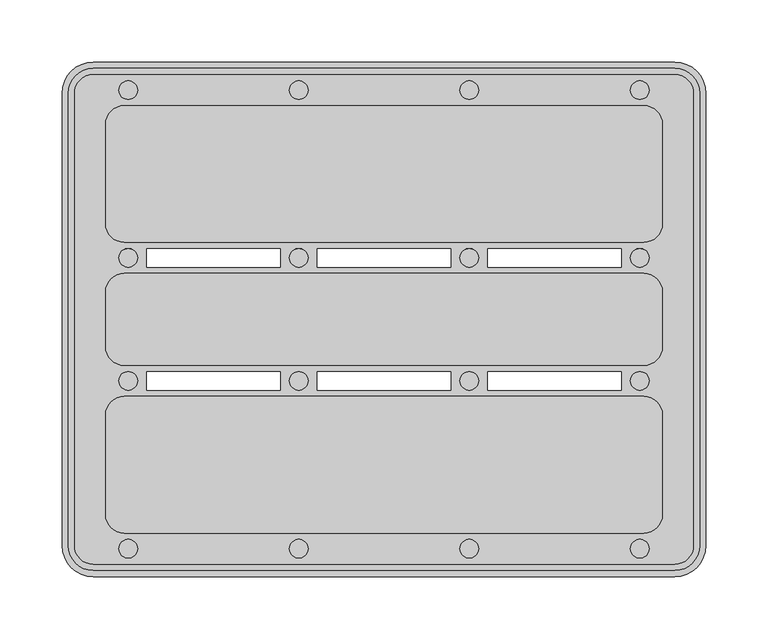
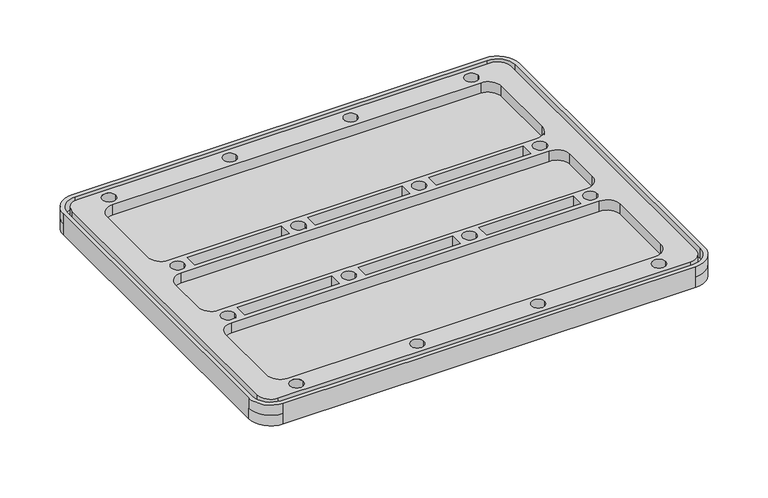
"""IFC4 building model written with IfcOpenShell, lengths in millimetres: light fixture geometry, Zumtobel CRAFT II Plus : CR2PL M17k-840 PC WB LDO WH."""

from ifc_helpers import new_model, si_unit, point, frame, frame_2d, origin, place, context, project, spatial, polyline, circle_curve, trimmed, segment, composite_curve, outline, extrude, source, transform, mapped, element, save
from ifc_brep_helpers import plane_surface, cylinder_surface, revolved_surface, advanced_brep


def light_fixture_68bd38ac(model_context):
    return source(origin(), model_context, "Body", "SolidModel", [
        advanced_brep(
        [(633.5000048, -207.0, -25.0), (165.5000048, -207.0, -25.0), (140.5000048, -182.0, -25.0), (140.5000048, 182.0, -25.0), (165.5000048, 207.0, -25.0), (633.5000048, 207.0, -25.0), (658.5000048, 182.0, -25.0), (658.5000048, -182.0, -25.0), (208.6450279, -42.0, -25.0), (208.6450279, -57.0, -25.0), (315.9273051, -57.0, -25.0), (315.9273051, -42.0, -25.0), (453.1411434, -42.0, -25.0), (345.8588662, -42.0, -25.0), (345.8588662, -57.0, -25.0), (453.1411434, -57.0, -25.0), (590.3549818, -42.0, -25.0), (483.0727046, -42.0, -25.0), (483.0727046, -57.0, -25.0), (590.3549818, -57.0, -25.0), (208.6450279, 42.0, -25.0), (315.9273051, 42.0, -25.0), (315.9273051, 57.0, -25.0), (208.6450279, 57.0, -25.0), (453.1411434, 42.0, -25.0), (453.1411434, 57.0, -25.0), (345.8588662, 57.0, -25.0), (345.8588662, 42.0, -25.0), (590.3549818, 42.0, -25.0), (590.3549818, 57.0, -25.0), (483.0727046, 57.0, -25.0), (483.0727046, 42.0, -25.0), (633.5000048, -202.0, -12.5), (653.5000048, -182.0, -12.5), (653.5000048, 182.0, -12.5), (633.5000048, 202.0, -12.5), (165.5000048, 202.0, -12.5), (145.5000048, 182.0, -12.5), (145.5000048, -182.0, -12.5), (165.5000048, -202.0, -12.5), (633.5000048, -197.0, -12.5), (165.5000048, -197.0, -12.5), (150.5000048, -182.0, -12.5), (150.5000048, 182.0, -12.5), (165.5000048, 197.0, -12.5), (633.5000048, 197.0, -12.5), (648.5000048, 182.0, -12.5), (648.5000048, -182.0, -12.5), (608.5000048, -172.0, -12.5), (623.5000048, -157.0, -12.5), (623.5000048, -77.0, -12.5), (608.5000048, -62.0, -12.5), (190.5000048, -62.0, -12.5), (175.5000048, -77.0, -12.5), (175.5000048, -157.0, -12.5), (190.5000048, -172.0, -12.5), (186.1792473, -184.5, -12.5), (201.1792473, -184.5, -12.5), (323.3930856, -184.5, -12.5), (338.3930856, -184.5, -12.5), (460.606924, -184.5, -12.5), (475.606924, -184.5, -12.5), (597.8207623, -184.5, -12.5), (612.8207623, -184.5, -12.5), (186.1792473, -49.5, -12.5), (201.1792473, -49.5, -12.5), (323.3930856, -49.5, -12.5), (338.3930856, -49.5, -12.5), (460.606924, -49.5, -12.5), (475.606924, -49.5, -12.5), (597.8207623, -49.5, -12.5), (612.8207623, -49.5, -12.5), (175.5000048, 22.0, -12.5), (175.5000048, -22.0, -12.5), (190.5000048, -37.0, -12.5), (608.5000048, -37.0, -12.5), (623.5000048, -22.0, -12.5), (623.5000048, 22.0, -12.5), (608.5000048, 37.0, -12.5), (190.5000048, 37.0, -12.5), (608.5000048, 172.0, -12.5), (190.5000048, 172.0, -12.5), (175.5000048, 157.0, -12.5), (175.5000048, 77.0, -12.5), (190.5000048, 62.0, -12.5), (608.5000048, 62.0, -12.5), (623.5000048, 77.0, -12.5), (623.5000048, 157.0, -12.5), (186.1792473, 184.5, -12.5), (201.1792473, 184.5, -12.5), (323.3930856, 184.5, -12.5), (338.3930856, 184.5, -12.5), (460.606924, 184.5, -12.5), (475.606924, 184.5, -12.5), (597.8207623, 184.5, -12.5), (612.8207623, 184.5, -12.5), (186.1792473, 49.5, -12.5), (201.1792473, 49.5, -12.5), (323.3930856, 49.5, -12.5), (338.3930856, 49.5, -12.5), (460.606924, 49.5, -12.5), (475.606924, 49.5, -12.5), (597.8207623, 49.5, -12.5), (612.8207623, 49.5, -12.5), (633.5000048, -207.0, -12.5), (633.5000048, -207.0, 0.0), (165.5000048, -207.0, 0.0), (165.5000048, -207.0, -12.5), (140.5000048, -182.0, -12.5), (140.5000048, -182.0, 0.0), (140.5000048, 182.0, 0.0), (140.5000048, 182.0, -12.5), (165.5000048, 207.0, -12.5), (165.5000048, 207.0, 0.0), (633.5000048, 207.0, 0.0), (633.5000048, 207.0, -12.5), (658.5000048, 182.0, -12.5), (658.5000048, 182.0, 0.0), (658.5000048, -182.0, 0.0), (658.5000048, -182.0, -12.5), (633.5000048, -202.0, 0.0), (165.5000048, -202.0, 0.0), (145.5000048, -182.0, 0.0), (145.5000048, 182.0, 0.0), (165.5000048, 202.0, 0.0), (633.5000048, 202.0, 0.0), (653.5000048, 182.0, 0.0), (653.5000048, -182.0, 0.0), (633.5000048, -197.0, 0.0), (648.5000048, -182.0, 0.0), (648.5000048, 182.0, 0.0), (633.5000048, 197.0, 0.0), (165.5000048, 197.0, 0.0), (150.5000048, 182.0, 0.0), (150.5000048, -182.0, 0.0), (165.5000048, -197.0, 0.0), (608.5000048, -172.0, 0.0), (190.5000048, -172.0, 0.0), (175.5000048, -157.0, 0.0), (175.5000048, -77.0, 0.0), (190.5000048, -62.0, 0.0), (608.5000048, -62.0, 0.0), (623.5000048, -77.0, 0.0), (623.5000048, -157.0, 0.0), (186.1792473, -184.5, 0.0), (201.1792473, -184.5, 0.0), (323.3930856, -184.5, 0.0), (338.3930856, -184.5, 0.0), (460.606924, -184.5, 0.0), (475.606924, -184.5, 0.0), (597.8207623, -184.5, 0.0), (612.8207623, -184.5, 0.0), (186.1792473, -49.5, 0.0), (201.1792473, -49.5, 0.0), (323.3930856, -49.5, 0.0), (338.3930856, -49.5, 0.0), (460.606924, -49.5, 0.0), (475.606924, -49.5, 0.0), (597.8207623, -49.5, 0.0), (612.8207623, -49.5, 0.0), (208.6450279, -42.0, 0.0), (315.9273051, -42.0, 0.0), (315.9273051, -57.0, 0.0), (208.6450279, -57.0, 0.0), (453.1411434, -42.0, 0.0), (453.1411434, -57.0, 0.0), (345.8588662, -57.0, 0.0), (345.8588662, -42.0, 0.0), (590.3549818, -42.0, 0.0), (590.3549818, -57.0, 0.0), (483.0727046, -57.0, 0.0), (483.0727046, -42.0, 0.0), (175.5000048, 22.0, 0.0), (190.5000048, 37.0, 0.0), (608.5000048, 37.0, 0.0), (623.5000048, 22.0, 0.0), (623.5000048, -22.0, 0.0), (608.5000048, -37.0, 0.0), (190.5000048, -37.0, 0.0), (175.5000048, -22.0, 0.0), (608.5000048, 172.0, 0.0), (623.5000048, 157.0, 0.0), (623.5000048, 77.0, 0.0), (608.5000048, 62.0, 0.0), (190.5000048, 62.0, 0.0), (175.5000048, 77.0, 0.0), (175.5000048, 157.0, 0.0), (190.5000048, 172.0, 0.0), (186.1792473, 184.5, 0.0), (201.1792473, 184.5, 0.0), (323.3930856, 184.5, 0.0), (338.3930856, 184.5, 0.0), (460.606924, 184.5, 0.0), (475.606924, 184.5, 0.0), (597.8207623, 184.5, 0.0), (612.8207623, 184.5, 0.0), (186.1792473, 49.5, 0.0), (201.1792473, 49.5, 0.0), (323.3930856, 49.5, 0.0), (338.3930856, 49.5, 0.0), (460.606924, 49.5, 0.0), (475.606924, 49.5, 0.0), (597.8207623, 49.5, 0.0), (612.8207623, 49.5, 0.0), (208.6450279, 42.0, 0.0), (208.6450279, 57.0, 0.0), (315.9273051, 57.0, 0.0), (315.9273051, 42.0, 0.0), (453.1411434, 42.0, 0.0), (345.8588662, 42.0, 0.0), (345.8588662, 57.0, 0.0), (453.1411434, 57.0, 0.0), (590.3549818, 42.0, 0.0), (483.0727046, 42.0, 0.0), (483.0727046, 57.0, 0.0), (590.3549818, 57.0, 0.0)],
        [
            (0, 1),
            (1, 2, circle_curve(frame((165.5000048, -182.0, -25.0), z_axis=(0.0, 0.0, -1.0), x_axis=(1.0, 0.0, 0.0)), 25.0)),
            (2, 3),
            (3, 4, circle_curve(frame((165.5000048, 182.0, -25.0), z_axis=(0.0, 0.0, -1.0), x_axis=(1.0, 0.0, 0.0)), 25.0)),
            (4, 5),
            (5, 6, circle_curve(frame((633.5000048, 182.0, -25.0), z_axis=(0.0, 0.0, -1.0), x_axis=(1.0, 0.0, 0.0)), 25.0)),
            (6, 7),
            (7, 0, circle_curve(frame((633.5000048, -182.0, -25.0), z_axis=(0.0, 0.0, -1.0), x_axis=(1.0, 0.0, 0.0)), 25.0)),
            (8, 9),
            (9, 10),
            (10, 11),
            (11, 8),
            (12, 13),
            (13, 14),
            (14, 15),
            (15, 12),
            (16, 17),
            (17, 18),
            (18, 19),
            (19, 16),
            (20, 21),
            (21, 22),
            (22, 23),
            (23, 20),
            (24, 25),
            (25, 26),
            (26, 27),
            (27, 24),
            (28, 29),
            (29, 30),
            (30, 31),
            (31, 28),
            (32, 33, circle_curve(frame((633.5000048, -182.0, -12.5), z_axis=(0.0, 0.0, 1.0), x_axis=(1.0, 0.0, 0.0)), 20.0)),
            (33, 34),
            (34, 35, circle_curve(frame((633.5000048, 182.0, -12.5), z_axis=(0.0, 0.0, 1.0), x_axis=(1.0, 0.0, 0.0)), 20.0)),
            (35, 36),
            (36, 37, circle_curve(frame((165.5000048, 182.0, -12.5), z_axis=(0.0, 0.0, 1.0), x_axis=(1.0, 0.0, 0.0)), 20.0)),
            (37, 38),
            (38, 39, circle_curve(frame((165.5000048, -182.0, -12.5), z_axis=(0.0, 0.0, 1.0), x_axis=(1.0, 0.0, 0.0)), 20.0)),
            (39, 32),
            (40, 41),
            (41, 42, circle_curve(frame((165.5000048, -182.0, -12.5), z_axis=(0.0, 0.0, -1.0), x_axis=(1.0, 0.0, 0.0)), 15.0)),
            (42, 43),
            (43, 44, circle_curve(frame((165.5000048, 182.0, -12.5), z_axis=(0.0, 0.0, -1.0), x_axis=(1.0, 0.0, 0.0)), 15.0)),
            (44, 45),
            (45, 46, circle_curve(frame((633.5000048, 182.0, -12.5), z_axis=(0.0, 0.0, -1.0), x_axis=(1.0, 0.0, 0.0)), 15.0)),
            (46, 47),
            (47, 40, circle_curve(frame((633.5000048, -182.0, -12.5), z_axis=(0.0, 0.0, -1.0), x_axis=(1.0, 0.0, 0.0)), 15.0)),
            (48, 49, circle_curve(frame((608.5000048, -157.0, -12.5), z_axis=(0.0, 0.0, 1.0), x_axis=(1.0, 0.0, 0.0)), 15.0)),
            (49, 50),
            (50, 51, circle_curve(frame((608.5000048, -77.0, -12.5), z_axis=(0.0, 0.0, 1.0), x_axis=(1.0, 0.0, 0.0)), 15.0)),
            (51, 52),
            (52, 53, circle_curve(frame((190.5000048, -77.0, -12.5), z_axis=(0.0, 0.0, 1.0), x_axis=(1.0, 0.0, 0.0)), 15.0)),
            (53, 54),
            (54, 55, circle_curve(frame((190.5000048, -157.0, -12.5), z_axis=(0.0, 0.0, 1.0), x_axis=(1.0, 0.0, 0.0)), 15.0)),
            (55, 48),
            (56, 57, circle_curve(frame((193.6792473, -184.5, -12.5), z_axis=(0.0, 0.0, 1.0), x_axis=(1.0, 0.0, 0.0)), 7.5)),
            (57, 56, circle_curve(frame((193.6792473, -184.5, -12.5), z_axis=(0.0, 0.0, 1.0), x_axis=(1.0, 0.0, 0.0)), 7.5)),
            (58, 59, circle_curve(frame((330.8930856, -184.5, -12.5), z_axis=(0.0, 0.0, 1.0), x_axis=(1.0, 0.0, 0.0)), 7.5)),
            (59, 58, circle_curve(frame((330.8930856, -184.5, -12.5), z_axis=(0.0, 0.0, 1.0), x_axis=(1.0, 0.0, 0.0)), 7.5)),
            (60, 61, circle_curve(frame((468.106924, -184.5, -12.5), z_axis=(0.0, 0.0, 1.0), x_axis=(1.0, 0.0, 0.0)), 7.5)),
            (61, 60, circle_curve(frame((468.106924, -184.5, -12.5), z_axis=(0.0, 0.0, 1.0), x_axis=(1.0, 0.0, 0.0)), 7.5)),
            (62, 63, circle_curve(frame((605.3207623, -184.5, -12.5), z_axis=(0.0, 0.0, 1.0), x_axis=(1.0, 0.0, 0.0)), 7.5)),
            (63, 62, circle_curve(frame((605.3207623, -184.5, -12.5), z_axis=(0.0, 0.0, 1.0), x_axis=(1.0, 0.0, 0.0)), 7.5)),
            (64, 65, circle_curve(frame((193.6792473, -49.5, -12.5), z_axis=(0.0, 0.0, 1.0), x_axis=(1.0, 0.0, 0.0)), 7.5)),
            (65, 64, circle_curve(frame((193.6792473, -49.5, -12.5), z_axis=(0.0, 0.0, 1.0), x_axis=(1.0, 0.0, 0.0)), 7.5)),
            (66, 67, circle_curve(frame((330.8930856, -49.5, -12.5), z_axis=(0.0, 0.0, 1.0), x_axis=(1.0, 0.0, 0.0)), 7.5)),
            (67, 66, circle_curve(frame((330.8930856, -49.5, -12.5), z_axis=(0.0, 0.0, 1.0), x_axis=(1.0, 0.0, 0.0)), 7.5)),
            (68, 69, circle_curve(frame((468.106924, -49.5, -12.5), z_axis=(0.0, 0.0, 1.0), x_axis=(1.0, 0.0, 0.0)), 7.5)),
            (69, 68, circle_curve(frame((468.106924, -49.5, -12.5), z_axis=(0.0, 0.0, 1.0), x_axis=(1.0, 0.0, 0.0)), 7.5)),
            (70, 71, circle_curve(frame((605.3207623, -49.5, -12.5), z_axis=(0.0, 0.0, 1.0), x_axis=(1.0, 0.0, 0.0)), 7.5)),
            (71, 70, circle_curve(frame((605.3207623, -49.5, -12.5), z_axis=(0.0, 0.0, 1.0), x_axis=(1.0, 0.0, 0.0)), 7.5)),
            (72, 73),
            (73, 74, circle_curve(frame((190.5000048, -22.0, -12.5), z_axis=(0.0, 0.0, 1.0), x_axis=(1.0, 0.0, 0.0)), 15.0)),
            (74, 75),
            (75, 76, circle_curve(frame((608.5000048, -22.0, -12.5), z_axis=(0.0, 0.0, 1.0), x_axis=(-1.0, 0.0, 0.0)), 15.0)),
            (76, 77),
            (77, 78, circle_curve(frame((608.5000048, 22.0, -12.5), z_axis=(0.0, 0.0, 1.0), x_axis=(-1.0, 0.0, 0.0)), 15.0)),
            (78, 79),
            (79, 72, circle_curve(frame((190.5000048, 22.0, -12.5), z_axis=(0.0, 0.0, 1.0), x_axis=(1.0, 0.0, 0.0)), 15.0)),
            (80, 81),
            (81, 82, circle_curve(frame((190.5000048, 157.0, -12.5), z_axis=(0.0, 0.0, 1.0), x_axis=(1.0, 0.0, 0.0)), 15.0)),
            (82, 83),
            (83, 84, circle_curve(frame((190.5000048, 77.0, -12.5), z_axis=(0.0, 0.0, 1.0), x_axis=(1.0, 0.0, 0.0)), 15.0)),
            (84, 85),
            (85, 86, circle_curve(frame((608.5000048, 77.0, -12.5), z_axis=(0.0, 0.0, 1.0), x_axis=(1.0, 0.0, 0.0)), 15.0)),
            (86, 87),
            (87, 80, circle_curve(frame((608.5000048, 157.0, -12.5), z_axis=(0.0, 0.0, 1.0), x_axis=(1.0, 0.0, 0.0)), 15.0)),
            (88, 89, circle_curve(frame((193.6792473, 184.5, -12.5), z_axis=(0.0, 0.0, 1.0), x_axis=(1.0, 0.0, 0.0)), 7.5)),
            (89, 88, circle_curve(frame((193.6792473, 184.5, -12.5), z_axis=(0.0, 0.0, 1.0), x_axis=(1.0, 0.0, 0.0)), 7.5)),
            (90, 91, circle_curve(frame((330.8930856, 184.5, -12.5), z_axis=(0.0, 0.0, 1.0), x_axis=(1.0, 0.0, 0.0)), 7.5)),
            (91, 90, circle_curve(frame((330.8930856, 184.5, -12.5), z_axis=(0.0, 0.0, 1.0), x_axis=(1.0, 0.0, 0.0)), 7.5)),
            (92, 93, circle_curve(frame((468.106924, 184.5, -12.5), z_axis=(0.0, 0.0, 1.0), x_axis=(1.0, 0.0, 0.0)), 7.5)),
            (93, 92, circle_curve(frame((468.106924, 184.5, -12.5), z_axis=(0.0, 0.0, 1.0), x_axis=(1.0, 0.0, 0.0)), 7.5)),
            (94, 95, circle_curve(frame((605.3207623, 184.5, -12.5), z_axis=(0.0, 0.0, 1.0), x_axis=(1.0, 0.0, 0.0)), 7.5)),
            (95, 94, circle_curve(frame((605.3207623, 184.5, -12.5), z_axis=(0.0, 0.0, 1.0), x_axis=(1.0, 0.0, 0.0)), 7.5)),
            (96, 97, circle_curve(frame((193.6792473, 49.5, -12.5), z_axis=(0.0, 0.0, 1.0), x_axis=(1.0, 0.0, 0.0)), 7.5)),
            (97, 96, circle_curve(frame((193.6792473, 49.5, -12.5), z_axis=(0.0, 0.0, 1.0), x_axis=(1.0, 0.0, 0.0)), 7.5)),
            (98, 99, circle_curve(frame((330.8930856, 49.5, -12.5), z_axis=(0.0, 0.0, 1.0), x_axis=(1.0, 0.0, 0.0)), 7.5)),
            (99, 98, circle_curve(frame((330.8930856, 49.5, -12.5), z_axis=(0.0, 0.0, 1.0), x_axis=(1.0, 0.0, 0.0)), 7.5)),
            (100, 101, circle_curve(frame((468.106924, 49.5, -12.5), z_axis=(0.0, 0.0, 1.0), x_axis=(1.0, 0.0, 0.0)), 7.5)),
            (101, 100, circle_curve(frame((468.106924, 49.5, -12.5), z_axis=(0.0, 0.0, 1.0), x_axis=(1.0, 0.0, 0.0)), 7.5)),
            (102, 103, circle_curve(frame((605.3207623, 49.5, -12.5), z_axis=(0.0, 0.0, 1.0), x_axis=(1.0, 0.0, 0.0)), 7.5)),
            (103, 102, circle_curve(frame((605.3207623, 49.5, -12.5), z_axis=(0.0, 0.0, 1.0), x_axis=(1.0, 0.0, 0.0)), 7.5)),
            (0, 104),
            (104, 105),
            (105, 106),
            (106, 107),
            (107, 1),
            (107, 108, circle_curve(frame((165.5000048, -182.0, -12.5), z_axis=(0.0, 0.0, -1.0), x_axis=(1.0, 0.0, 0.0)), 25.0)),
            (108, 2),
            (108, 109),
            (109, 110),
            (110, 111),
            (111, 3),
            (111, 112, circle_curve(frame((165.5000048, 182.0, -12.5), z_axis=(0.0, 0.0, -1.0), x_axis=(1.0, 0.0, 0.0)), 25.0)),
            (112, 4),
            (112, 113),
            (113, 114),
            (114, 115),
            (115, 5),
            (115, 116, circle_curve(frame((633.5000048, 182.0, -12.5), z_axis=(0.0, 0.0, -1.0), x_axis=(1.0, 0.0, 0.0)), 25.0)),
            (116, 6),
            (116, 117),
            (117, 118),
            (118, 119),
            (119, 7),
            (119, 104, circle_curve(frame((633.5000048, -182.0, -12.5), z_axis=(0.0, 0.0, -1.0), x_axis=(1.0, 0.0, 0.0)), 25.0)),
            (105, 118, circle_curve(frame((633.5000048, -182.0, 0.0), z_axis=(0.0, 0.0, 1.0), x_axis=(1.0, 0.0, 0.0)), 25.0)),
            (117, 114, circle_curve(frame((633.5000048, 182.0, 0.0), z_axis=(0.0, 0.0, 1.0), x_axis=(1.0, 0.0, 0.0)), 25.0)),
            (113, 110, circle_curve(frame((165.5000048, 182.0, 0.0), z_axis=(0.0, 0.0, 1.0), x_axis=(1.0, 0.0, 0.0)), 25.0)),
            (109, 106, circle_curve(frame((165.5000048, -182.0, 0.0), z_axis=(0.0, 0.0, 1.0), x_axis=(1.0, 0.0, 0.0)), 25.0)),
            (120, 121),
            (121, 122, circle_curve(frame((165.5000048, -182.0, 0.0), z_axis=(0.0, 0.0, -1.0), x_axis=(1.0, 0.0, 0.0)), 20.0)),
            (122, 123),
            (123, 124, circle_curve(frame((165.5000048, 182.0, 0.0), z_axis=(0.0, 0.0, -1.0), x_axis=(1.0, 0.0, 0.0)), 20.0)),
            (124, 125),
            (125, 126, circle_curve(frame((633.5000048, 182.0, 0.0), z_axis=(0.0, 0.0, -1.0), x_axis=(1.0, 0.0, 0.0)), 20.0)),
            (126, 127),
            (127, 120, circle_curve(frame((633.5000048, -182.0, 0.0), z_axis=(0.0, 0.0, -1.0), x_axis=(1.0, 0.0, 0.0)), 20.0)),
            (127, 33),
            (32, 120),
            (126, 34),
            (125, 35),
            (124, 36),
            (123, 37),
            (122, 38),
            (121, 39),
            (128, 129, circle_curve(frame((633.5000048, -182.0, 0.0), z_axis=(0.0, 0.0, 1.0), x_axis=(1.0, 0.0, 0.0)), 15.0)),
            (129, 130),
            (130, 131, circle_curve(frame((633.5000048, 182.0, 0.0), z_axis=(0.0, 0.0, 1.0), x_axis=(1.0, 0.0, 0.0)), 15.0)),
            (131, 132),
            (132, 133, circle_curve(frame((165.5000048, 182.0, 0.0), z_axis=(0.0, 0.0, 1.0), x_axis=(1.0, 0.0, 0.0)), 15.0)),
            (133, 134),
            (134, 135, circle_curve(frame((165.5000048, -182.0, 0.0), z_axis=(0.0, 0.0, 1.0), x_axis=(1.0, 0.0, 0.0)), 15.0)),
            (135, 128),
            (136, 137),
            (137, 138, circle_curve(frame((190.5000048, -157.0, 0.0), z_axis=(0.0, 0.0, -1.0), x_axis=(1.0, 0.0, 0.0)), 15.0)),
            (138, 139),
            (139, 140, circle_curve(frame((190.5000048, -77.0, 0.0), z_axis=(0.0, 0.0, -1.0), x_axis=(1.0, 0.0, 0.0)), 15.0)),
            (140, 141),
            (141, 142, circle_curve(frame((608.5000048, -77.0, 0.0), z_axis=(0.0, 0.0, -1.0), x_axis=(1.0, 0.0, 0.0)), 15.0)),
            (142, 143),
            (143, 136, circle_curve(frame((608.5000048, -157.0, 0.0), z_axis=(0.0, 0.0, -1.0), x_axis=(1.0, 0.0, 0.0)), 15.0)),
            (144, 145, circle_curve(frame((193.6792473, -184.5, 0.0), z_axis=(0.0, 0.0, -1.0), x_axis=(1.0, 0.0, 0.0)), 7.5)),
            (145, 144, circle_curve(frame((193.6792473, -184.5, 0.0), z_axis=(0.0, 0.0, -1.0), x_axis=(1.0, 0.0, 0.0)), 7.5)),
            (146, 147, circle_curve(frame((330.8930856, -184.5, 0.0), z_axis=(0.0, 0.0, -1.0), x_axis=(1.0, 0.0, 0.0)), 7.5)),
            (147, 146, circle_curve(frame((330.8930856, -184.5, 0.0), z_axis=(0.0, 0.0, -1.0), x_axis=(1.0, 0.0, 0.0)), 7.5)),
            (148, 149, circle_curve(frame((468.106924, -184.5, 0.0), z_axis=(0.0, 0.0, -1.0), x_axis=(1.0, 0.0, 0.0)), 7.5)),
            (149, 148, circle_curve(frame((468.106924, -184.5, 0.0), z_axis=(0.0, 0.0, -1.0), x_axis=(1.0, 0.0, 0.0)), 7.5)),
            (150, 151, circle_curve(frame((605.3207623, -184.5, 0.0), z_axis=(0.0, 0.0, -1.0), x_axis=(1.0, 0.0, 0.0)), 7.5)),
            (151, 150, circle_curve(frame((605.3207623, -184.5, 0.0), z_axis=(0.0, 0.0, -1.0), x_axis=(1.0, 0.0, 0.0)), 7.5)),
            (152, 153, circle_curve(frame((193.6792473, -49.5, 0.0), z_axis=(0.0, 0.0, -1.0), x_axis=(1.0, 0.0, 0.0)), 7.5)),
            (153, 152, circle_curve(frame((193.6792473, -49.5, 0.0), z_axis=(0.0, 0.0, -1.0), x_axis=(1.0, 0.0, 0.0)), 7.5)),
            (154, 155, circle_curve(frame((330.8930856, -49.5, 0.0), z_axis=(0.0, 0.0, -1.0), x_axis=(1.0, 0.0, 0.0)), 7.5)),
            (155, 154, circle_curve(frame((330.8930856, -49.5, 0.0), z_axis=(0.0, 0.0, -1.0), x_axis=(1.0, 0.0, 0.0)), 7.5)),
            (156, 157, circle_curve(frame((468.106924, -49.5, 0.0), z_axis=(0.0, 0.0, -1.0), x_axis=(1.0, 0.0, 0.0)), 7.5)),
            (157, 156, circle_curve(frame((468.106924, -49.5, 0.0), z_axis=(0.0, 0.0, -1.0), x_axis=(1.0, 0.0, 0.0)), 7.5)),
            (158, 159, circle_curve(frame((605.3207623, -49.5, 0.0), z_axis=(0.0, 0.0, -1.0), x_axis=(1.0, 0.0, 0.0)), 7.5)),
            (159, 158, circle_curve(frame((605.3207623, -49.5, 0.0), z_axis=(0.0, 0.0, -1.0), x_axis=(1.0, 0.0, 0.0)), 7.5)),
            (160, 161),
            (161, 162),
            (162, 163),
            (163, 160),
            (164, 165),
            (165, 166),
            (166, 167),
            (167, 164),
            (168, 169),
            (169, 170),
            (170, 171),
            (171, 168),
            (172, 173, circle_curve(frame((190.5000048, 22.0, 0.0), z_axis=(0.0, 0.0, -1.0), x_axis=(1.0, 0.0, 0.0)), 15.0)),
            (173, 174),
            (174, 175, circle_curve(frame((608.5000048, 22.0, 0.0), z_axis=(0.0, 0.0, -1.0), x_axis=(-1.0, 0.0, 0.0)), 15.0)),
            (175, 176),
            (176, 177, circle_curve(frame((608.5000048, -22.0, 0.0), z_axis=(0.0, 0.0, -1.0), x_axis=(-1.0, 0.0, 0.0)), 15.0)),
            (177, 178),
            (178, 179, circle_curve(frame((190.5000048, -22.0, 0.0), z_axis=(0.0, 0.0, -1.0), x_axis=(1.0, 0.0, 0.0)), 15.0)),
            (179, 172),
            (180, 181, circle_curve(frame((608.5000048, 157.0, 0.0), z_axis=(0.0, 0.0, -1.0), x_axis=(1.0, 0.0, 0.0)), 15.0)),
            (181, 182),
            (182, 183, circle_curve(frame((608.5000048, 77.0, 0.0), z_axis=(0.0, 0.0, -1.0), x_axis=(1.0, 0.0, 0.0)), 15.0)),
            (183, 184),
            (184, 185, circle_curve(frame((190.5000048, 77.0, 0.0), z_axis=(0.0, 0.0, -1.0), x_axis=(1.0, 0.0, 0.0)), 15.0)),
            (185, 186),
            (186, 187, circle_curve(frame((190.5000048, 157.0, 0.0), z_axis=(0.0, 0.0, -1.0), x_axis=(1.0, 0.0, 0.0)), 15.0)),
            (187, 180),
            (188, 189, circle_curve(frame((193.6792473, 184.5, 0.0), z_axis=(0.0, 0.0, -1.0), x_axis=(1.0, 0.0, 0.0)), 7.5)),
            (189, 188, circle_curve(frame((193.6792473, 184.5, 0.0), z_axis=(0.0, 0.0, -1.0), x_axis=(1.0, 0.0, 0.0)), 7.5)),
            (190, 191, circle_curve(frame((330.8930856, 184.5, 0.0), z_axis=(0.0, 0.0, -1.0), x_axis=(1.0, 0.0, 0.0)), 7.5)),
            (191, 190, circle_curve(frame((330.8930856, 184.5, 0.0), z_axis=(0.0, 0.0, -1.0), x_axis=(1.0, 0.0, 0.0)), 7.5)),
            (192, 193, circle_curve(frame((468.106924, 184.5, 0.0), z_axis=(0.0, 0.0, -1.0), x_axis=(1.0, 0.0, 0.0)), 7.5)),
            (193, 192, circle_curve(frame((468.106924, 184.5, 0.0), z_axis=(0.0, 0.0, -1.0), x_axis=(1.0, 0.0, 0.0)), 7.5)),
            (194, 195, circle_curve(frame((605.3207623, 184.5, 0.0), z_axis=(0.0, 0.0, -1.0), x_axis=(1.0, 0.0, 0.0)), 7.5)),
            (195, 194, circle_curve(frame((605.3207623, 184.5, 0.0), z_axis=(0.0, 0.0, -1.0), x_axis=(1.0, 0.0, 0.0)), 7.5)),
            (196, 197, circle_curve(frame((193.6792473, 49.5, 0.0), z_axis=(0.0, 0.0, -1.0), x_axis=(1.0, 0.0, 0.0)), 7.5)),
            (197, 196, circle_curve(frame((193.6792473, 49.5, 0.0), z_axis=(0.0, 0.0, -1.0), x_axis=(1.0, 0.0, 0.0)), 7.5)),
            (198, 199, circle_curve(frame((330.8930856, 49.5, 0.0), z_axis=(0.0, 0.0, -1.0), x_axis=(1.0, 0.0, 0.0)), 7.5)),
            (199, 198, circle_curve(frame((330.8930856, 49.5, 0.0), z_axis=(0.0, 0.0, -1.0), x_axis=(1.0, 0.0, 0.0)), 7.5)),
            (200, 201, circle_curve(frame((468.106924, 49.5, 0.0), z_axis=(0.0, 0.0, -1.0), x_axis=(1.0, 0.0, 0.0)), 7.5)),
            (201, 200, circle_curve(frame((468.106924, 49.5, 0.0), z_axis=(0.0, 0.0, -1.0), x_axis=(1.0, 0.0, 0.0)), 7.5)),
            (202, 203, circle_curve(frame((605.3207623, 49.5, 0.0), z_axis=(0.0, 0.0, -1.0), x_axis=(1.0, 0.0, 0.0)), 7.5)),
            (203, 202, circle_curve(frame((605.3207623, 49.5, 0.0), z_axis=(0.0, 0.0, -1.0), x_axis=(1.0, 0.0, 0.0)), 7.5)),
            (204, 205),
            (205, 206),
            (206, 207),
            (207, 204),
            (208, 209),
            (209, 210),
            (210, 211),
            (211, 208),
            (212, 213),
            (213, 214),
            (214, 215),
            (215, 212),
            (135, 41),
            (40, 128),
            (134, 42),
            (133, 43),
            (132, 44),
            (131, 45),
            (130, 46),
            (129, 47),
            (143, 49),
            (48, 136),
            (142, 50),
            (141, 51),
            (140, 52),
            (139, 53),
            (138, 54),
            (137, 55),
            (145, 57),
            (56, 144),
            (147, 59),
            (58, 146),
            (149, 61),
            (60, 148),
            (151, 63),
            (62, 150),
            (153, 65),
            (64, 152),
            (155, 67),
            (66, 154),
            (157, 69),
            (68, 156),
            (159, 71),
            (70, 158),
            (179, 73),
            (72, 172),
            (178, 74),
            (177, 75),
            (176, 76),
            (175, 77),
            (174, 78),
            (173, 79),
            (187, 81),
            (80, 180),
            (186, 82),
            (185, 83),
            (184, 84),
            (183, 85),
            (182, 86),
            (181, 87),
            (189, 89),
            (88, 188),
            (191, 91),
            (90, 190),
            (193, 93),
            (92, 192),
            (195, 95),
            (94, 194),
            (197, 97),
            (96, 196),
            (199, 99),
            (98, 198),
            (201, 101),
            (100, 200),
            (203, 103),
            (102, 202),
            (8, 160),
            (163, 9),
            (162, 10),
            (161, 11),
            (12, 164),
            (167, 13),
            (166, 14),
            (165, 15),
            (16, 168),
            (171, 17),
            (170, 18),
            (169, 19),
            (20, 204),
            (207, 21),
            (206, 22),
            (205, 23),
            (24, 208),
            (211, 25),
            (210, 26),
            (209, 27),
            (28, 212),
            (215, 29),
            (214, 30),
            (213, 31),
        ],
        [
            plane_surface(frame((140.5000048, -207.0, -25.0), z_axis=(0.0, 0.0, -1.0), x_axis=(-1.0, 0.0, 0.0))),
            plane_surface(frame((140.5000048, -207.0, -12.5), z_axis=(0.0, 0.0, 1.0), x_axis=(1.0, 0.0, 0.0))),
            plane_surface(frame((633.5000048, -207.0, -25.0), z_axis=(0.0, -1.0, 0.0), x_axis=(0.0, 0.0, 1.0))),
            cylinder_surface(frame((165.5000048, -182.0, -12.5), z_axis=(0.0, 0.0, -1.0), x_axis=(1.0, 0.0, 0.0)), 25.0),
            plane_surface(frame((140.5000048, -182.0, -25.0), z_axis=(-1.0, 0.0, 0.0), x_axis=(0.0, 0.0, 1.0))),
            cylinder_surface(frame((165.5000048, 182.0, -12.5), z_axis=(0.0, 0.0, -1.0), x_axis=(1.0, 0.0, 0.0)), 25.0),
            plane_surface(frame((165.5000048, 207.0, -25.0), z_axis=(0.0, 1.0, 0.0), x_axis=(0.0, 0.0, 1.0))),
            cylinder_surface(frame((633.5000048, 182.0, -12.5), z_axis=(0.0, 0.0, -1.0), x_axis=(1.0, 0.0, 0.0)), 25.0),
            plane_surface(frame((658.5000048, 182.0, -25.0), z_axis=(1.0, 0.0, 0.0), x_axis=(0.0, 0.0, 1.0))),
            cylinder_surface(frame((633.5000048, -182.0, -12.5), z_axis=(0.0, 0.0, -1.0), x_axis=(1.0, 0.0, 0.0)), 25.0),
            plane_surface(frame((140.5000048, -207.0, 0.0), z_axis=(0.0, 0.0, 1.0), x_axis=(1.0, 0.0, 0.0))),
            cylinder_surface(frame((165.5000048, -182.0, 0.0), z_axis=(0.0, 0.0, -1.0), x_axis=(1.0, 0.0, 0.0)), 25.0),
            cylinder_surface(frame((165.5000048, 182.0, 0.0), z_axis=(0.0, 0.0, -1.0), x_axis=(1.0, 0.0, 0.0)), 25.0),
            cylinder_surface(frame((633.5000048, 182.0, 0.0), z_axis=(0.0, 0.0, -1.0), x_axis=(1.0, 0.0, 0.0)), 25.0),
            cylinder_surface(frame((633.5000048, -182.0, 0.0), z_axis=(0.0, 0.0, -1.0), x_axis=(1.0, 0.0, 0.0)), 25.0),
            revolved_surface(polyline([(653.5000048, -182.0, 0.0), (653.5000048, -182.0, -12.5)]), (633.5000048, -182.0, 0.0), (0.0, 0.0, 1.0)),
            plane_surface(frame((653.5000048, -182.0, -12.5), z_axis=(-1.0, 0.0, 0.0), x_axis=(0.0, 0.0, 1.0))),
            revolved_surface(polyline([(653.5000048, 182.0, 0.0), (653.5000048, 182.0, -12.5)]), (633.5000048, 182.0, 0.0), (0.0, 0.0, 1.0)),
            plane_surface(frame((633.5000048, 202.0, -12.5), z_axis=(0.0, -1.0, 0.0), x_axis=(0.0, 0.0, 1.0))),
            revolved_surface(polyline([(185.5000048, 182.0, 0.0), (185.5000048, 182.0, -12.5)]), (165.5000048, 182.0, 0.0), (0.0, 0.0, 1.0)),
            plane_surface(frame((145.5000048, 182.0, -12.5), z_axis=(1.0, 0.0, 0.0), x_axis=(0.0, 0.0, 1.0))),
            revolved_surface(polyline([(185.5000048, -182.0, 0.0), (185.5000048, -182.0, -12.5)]), (165.5000048, -182.0, 0.0), (0.0, 0.0, 1.0)),
            plane_surface(frame((165.5000048, -202.0, -12.5), z_axis=(0.0, 1.0, 0.0), x_axis=(0.0, 0.0, 1.0))),
            plane_surface(frame((140.5000048, -197.0, 0.0), z_axis=(0.0, 0.0, 1.0), x_axis=(1.0, 0.0, 0.0))),
            plane_surface(frame((633.5000048, -197.0, -12.5), z_axis=(0.0, -1.0, 0.0), x_axis=(0.0, 0.0, 1.0))),
            cylinder_surface(frame((165.5000048, -182.0, 0.0), z_axis=(0.0, 0.0, -1.0), x_axis=(1.0, 0.0, 0.0)), 15.0),
            plane_surface(frame((150.5000048, -182.0, -12.5), z_axis=(-1.0, 0.0, 0.0), x_axis=(0.0, 0.0, 1.0))),
            cylinder_surface(frame((165.5000048, 182.0, 0.0), z_axis=(0.0, 0.0, -1.0), x_axis=(1.0, 0.0, 0.0)), 15.0),
            plane_surface(frame((165.5000048, 197.0, -12.5), z_axis=(0.0, 1.0, 0.0), x_axis=(0.0, 0.0, 1.0))),
            cylinder_surface(frame((633.5000048, 182.0, 0.0), z_axis=(0.0, 0.0, -1.0), x_axis=(1.0, 0.0, 0.0)), 15.0),
            plane_surface(frame((648.5000048, 182.0, -12.5), z_axis=(1.0, 0.0, 0.0), x_axis=(0.0, 0.0, 1.0))),
            cylinder_surface(frame((633.5000048, -182.0, 0.0), z_axis=(0.0, 0.0, -1.0), x_axis=(1.0, 0.0, 0.0)), 15.0),
            revolved_surface(polyline([(623.5000048, -157.0, 0.0), (623.5000048, -157.0, -12.5)]), (608.5000048, -157.0, 0.0), (0.0, 0.0, 1.0)),
            plane_surface(frame((623.5000048, -157.0, -12.5), z_axis=(-1.0, 0.0, 0.0), x_axis=(0.0, 0.0, 1.0))),
            revolved_surface(polyline([(623.5000048, -77.0, 0.0), (623.5000048, -77.0, -12.5)]), (608.5000048, -77.0, 0.0), (0.0, 0.0, 1.0)),
            plane_surface(frame((608.5000048, -62.0, -12.5), z_axis=(0.0, -1.0, 0.0), x_axis=(0.0, 0.0, 1.0))),
            revolved_surface(polyline([(205.5000048, -77.0, 0.0), (205.5000048, -77.0, -12.5)]), (190.5000048, -77.0, 0.0), (0.0, 0.0, 1.0)),
            plane_surface(frame((175.5000048, -77.0, -12.5), z_axis=(1.0, 0.0, 0.0), x_axis=(0.0, 0.0, 1.0))),
            revolved_surface(polyline([(205.5000048, -157.0, 0.0), (205.5000048, -157.0, -12.5)]), (190.5000048, -157.0, 0.0), (0.0, 0.0, 1.0)),
            plane_surface(frame((190.5000048, -172.0, -12.5), z_axis=(0.0, 1.0, 0.0), x_axis=(0.0, 0.0, 1.0))),
            revolved_surface(polyline([(201.1792473, -184.5, 0.0), (201.1792473, -184.5, -12.5)]), (193.6792473, -184.5, 0.0), (0.0, 0.0, 1.0)),
            revolved_surface(polyline([(338.3930856, -184.5, 0.0), (338.3930856, -184.5, -12.5)]), (330.8930856, -184.5, 0.0), (0.0, 0.0, 1.0)),
            revolved_surface(polyline([(475.606924, -184.5, 0.0), (475.606924, -184.5, -12.5)]), (468.106924, -184.5, 0.0), (0.0, 0.0, 1.0)),
            revolved_surface(polyline([(612.8207623, -184.5, 0.0), (612.8207623, -184.5, -12.5)]), (605.3207623, -184.5, 0.0), (0.0, 0.0, 1.0)),
            revolved_surface(polyline([(201.1792473, -49.5, 0.0), (201.1792473, -49.5, -12.5)]), (193.6792473, -49.5, 0.0), (0.0, 0.0, 1.0)),
            revolved_surface(polyline([(338.3930856, -49.5, 0.0), (338.3930856, -49.5, -12.5)]), (330.8930856, -49.5, 0.0), (0.0, 0.0, 1.0)),
            revolved_surface(polyline([(475.606924, -49.5, 0.0), (475.606924, -49.5, -12.5)]), (468.106924, -49.5, 0.0), (0.0, 0.0, 1.0)),
            revolved_surface(polyline([(612.8207623, -49.5, 0.0), (612.8207623, -49.5, -12.5)]), (605.3207623, -49.5, 0.0), (0.0, 0.0, 1.0)),
            plane_surface(frame((175.5000048, 22.0, -12.5), z_axis=(1.0, 0.0, 0.0), x_axis=(0.0, 0.0, 1.0))),
            revolved_surface(polyline([(205.5000048, -22.0, 0.0), (205.5000048, -22.0, -12.5)]), (190.5000048, -22.0, 0.0), (0.0, 0.0, 1.0)),
            plane_surface(frame((190.5000048, -37.0, -12.5), z_axis=(0.0, 1.0, 0.0), x_axis=(0.0, 0.0, 1.0))),
            revolved_surface(polyline([(593.5000048, -22.0, 0.0), (593.5000048, -22.0, -12.5)]), (608.5000048, -22.0, 0.0), (0.0, 0.0, 1.0)),
            plane_surface(frame((623.5000048, -22.0, -12.5), z_axis=(-1.0, 0.0, 0.0), x_axis=(0.0, 0.0, 1.0))),
            revolved_surface(polyline([(593.5000048, 22.0, 0.0), (593.5000048, 22.0, -12.5)]), (608.5000048, 22.0, 0.0), (0.0, 0.0, 1.0)),
            plane_surface(frame((608.5000048, 37.0, -12.5), z_axis=(0.0, -1.0, 0.0), x_axis=(0.0, 0.0, 1.0))),
            revolved_surface(polyline([(205.5000048, 22.0, 0.0), (205.5000048, 22.0, -12.5)]), (190.5000048, 22.0, 0.0), (0.0, 0.0, 1.0)),
            plane_surface(frame((608.5000048, 172.0, -12.5), z_axis=(0.0, -1.0, 0.0), x_axis=(0.0, 0.0, 1.0))),
            revolved_surface(polyline([(205.5000048, 157.0, 0.0), (205.5000048, 157.0, -12.5)]), (190.5000048, 157.0, 0.0), (0.0, 0.0, 1.0)),
            plane_surface(frame((175.5000048, 157.0, -12.5), z_axis=(1.0, 0.0, 0.0), x_axis=(0.0, 0.0, 1.0))),
            revolved_surface(polyline([(205.5000048, 77.0, 0.0), (205.5000048, 77.0, -12.5)]), (190.5000048, 77.0, 0.0), (0.0, 0.0, 1.0)),
            plane_surface(frame((190.5000048, 62.0, -12.5), z_axis=(0.0, 1.0, 0.0), x_axis=(0.0, 0.0, 1.0))),
            revolved_surface(polyline([(623.5000048, 77.0, 0.0), (623.5000048, 77.0, -12.5)]), (608.5000048, 77.0, 0.0), (0.0, 0.0, 1.0)),
            plane_surface(frame((623.5000048, 77.0, -12.5), z_axis=(-1.0, 0.0, 0.0), x_axis=(0.0, 0.0, 1.0))),
            revolved_surface(polyline([(623.5000048, 157.0, 0.0), (623.5000048, 157.0, -12.5)]), (608.5000048, 157.0, 0.0), (0.0, 0.0, 1.0)),
            revolved_surface(polyline([(201.1792473, 184.5, 0.0), (201.1792473, 184.5, -12.5)]), (193.6792473, 184.5, 0.0), (0.0, 0.0, 1.0)),
            revolved_surface(polyline([(338.3930856, 184.5, 0.0), (338.3930856, 184.5, -12.5)]), (330.8930856, 184.5, 0.0), (0.0, 0.0, 1.0)),
            revolved_surface(polyline([(475.606924, 184.5, 0.0), (475.606924, 184.5, -12.5)]), (468.106924, 184.5, 0.0), (0.0, 0.0, 1.0)),
            revolved_surface(polyline([(612.8207623, 184.5, 0.0), (612.8207623, 184.5, -12.5)]), (605.3207623, 184.5, 0.0), (0.0, 0.0, 1.0)),
            revolved_surface(polyline([(201.1792473, 49.5, 0.0), (201.1792473, 49.5, -12.5)]), (193.6792473, 49.5, 0.0), (0.0, 0.0, 1.0)),
            revolved_surface(polyline([(338.3930856, 49.5, 0.0), (338.3930856, 49.5, -12.5)]), (330.8930856, 49.5, 0.0), (0.0, 0.0, 1.0)),
            revolved_surface(polyline([(475.606924, 49.5, 0.0), (475.606924, 49.5, -12.5)]), (468.106924, 49.5, 0.0), (0.0, 0.0, 1.0)),
            revolved_surface(polyline([(612.8207623, 49.5, 0.0), (612.8207623, 49.5, -12.5)]), (605.3207623, 49.5, 0.0), (0.0, 0.0, 1.0)),
            plane_surface(frame((208.6450279, -42.0, -25.0), z_axis=(1.0, 0.0, 0.0), x_axis=(0.0, 0.0, 1.0))),
            plane_surface(frame((208.6450279, -57.0, -25.0), z_axis=(0.0, 1.0, 0.0), x_axis=(0.0, 0.0, 1.0))),
            plane_surface(frame((315.9273051, -57.0, -25.0), z_axis=(-1.0, 0.0, 0.0), x_axis=(0.0, 0.0, 1.0))),
            plane_surface(frame((315.9273051, -42.0, -25.0), z_axis=(0.0, -1.0, 0.0), x_axis=(0.0, 0.0, 1.0))),
            plane_surface(frame((453.1411434, -42.0, -25.0), z_axis=(0.0, -1.0, 0.0), x_axis=(0.0, 0.0, 1.0))),
            plane_surface(frame((345.8588662, -42.0, -25.0), z_axis=(1.0, 0.0, 0.0), x_axis=(0.0, 0.0, 1.0))),
            plane_surface(frame((345.8588662, -57.0, -25.0), z_axis=(0.0, 1.0, 0.0), x_axis=(0.0, 0.0, 1.0))),
            plane_surface(frame((453.1411434, -57.0, -25.0), z_axis=(-1.0, 0.0, 0.0), x_axis=(0.0, 0.0, 1.0))),
            plane_surface(frame((590.3549818, -42.0, -25.0), z_axis=(0.0, -1.0, 0.0), x_axis=(0.0, 0.0, 1.0))),
            plane_surface(frame((483.0727046, -42.0, -25.0), z_axis=(1.0, 0.0, 0.0), x_axis=(0.0, 0.0, 1.0))),
            plane_surface(frame((483.0727046, -57.0, -25.0), z_axis=(0.0, 1.0, 0.0), x_axis=(0.0, 0.0, 1.0))),
            plane_surface(frame((590.3549818, -57.0, -25.0), z_axis=(-1.0, 0.0, 0.0), x_axis=(0.0, 0.0, 1.0))),
            plane_surface(frame((208.6450279, 42.0, -25.0), z_axis=(0.0, 1.0, 0.0), x_axis=(0.0, 0.0, 1.0))),
            plane_surface(frame((315.9273051, 42.0, -25.0), z_axis=(-1.0, 0.0, 0.0), x_axis=(0.0, 0.0, 1.0))),
            plane_surface(frame((315.9273051, 57.0, -25.0), z_axis=(0.0, -1.0, 0.0), x_axis=(0.0, 0.0, 1.0))),
            plane_surface(frame((208.6450279, 57.0, -25.0), z_axis=(1.0, 0.0, 0.0), x_axis=(0.0, 0.0, 1.0))),
            plane_surface(frame((453.1411434, 42.0, -25.0), z_axis=(-1.0, 0.0, 0.0), x_axis=(0.0, 0.0, 1.0))),
            plane_surface(frame((453.1411434, 57.0, -25.0), z_axis=(0.0, -1.0, 0.0), x_axis=(0.0, 0.0, 1.0))),
            plane_surface(frame((345.8588662, 57.0, -25.0), z_axis=(1.0, 0.0, 0.0), x_axis=(0.0, 0.0, 1.0))),
            plane_surface(frame((345.8588662, 42.0, -25.0), z_axis=(0.0, 1.0, 0.0), x_axis=(0.0, 0.0, 1.0))),
            plane_surface(frame((590.3549818, 42.0, -25.0), z_axis=(-1.0, 0.0, 0.0), x_axis=(0.0, 0.0, 1.0))),
            plane_surface(frame((590.3549818, 57.0, -25.0), z_axis=(0.0, -1.0, 0.0), x_axis=(0.0, 0.0, 1.0))),
            plane_surface(frame((483.0727046, 57.0, -25.0), z_axis=(1.0, 0.0, 0.0), x_axis=(0.0, 0.0, 1.0))),
            plane_surface(frame((483.0727046, 42.0, -25.0), z_axis=(0.0, 1.0, 0.0), x_axis=(0.0, 0.0, 1.0))),
        ],
        [
            (0, [[1, 2, 3, 4, 5, 6, 7, 8], [9, 10, 11, 12], [13, 14, 15, 16], [17, 18, 19, 20], [21, 22, 23, 24], [25, 26, 27, 28], [29, 30, 31, 32]]),
            (1, [[33, 34, 35, 36, 37, 38, 39, 40], [41, 42, 43, 44, 45, 46, 47, 48]]),
            (1, [[49, 50, 51, 52, 53, 54, 55, 56]]),
            (1, [[57, 58]]),
            (1, [[59, 60]]),
            (1, [[61, 62]]),
            (1, [[63, 64]]),
            (1, [[65, 66]]),
            (1, [[67, 68]]),
            (1, [[69, 70]]),
            (1, [[71, 72]]),
            (1, [[73, 74, 75, 76, 77, 78, 79, 80]]),
            (1, [[81, 82, 83, 84, 85, 86, 87, 88]]),
            (1, [[89, 90]]),
            (1, [[91, 92]]),
            (1, [[93, 94]]),
            (1, [[95, 96]]),
            (1, [[97, 98]]),
            (1, [[99, 100]]),
            (1, [[101, 102]]),
            (1, [[103, 104]]),
            (2, [[-1, 105, 106, 107, 108, 109]]),
            (3, [[-2, -109, 110, 111]]),
            (4, [[-3, -111, 112, 113, 114, 115]]),
            (5, [[-4, -115, 116, 117]]),
            (6, [[-5, -117, 118, 119, 120, 121]]),
            (7, [[-6, -121, 122, 123]]),
            (8, [[-7, -123, 124, 125, 126, 127]]),
            (9, [[-8, -127, 128, -105]]),
            (10, [[129, -125, 130, -119, 131, -113, 132, -107], [133, 134, 135, 136, 137, 138, 139, 140]]),
            (11, [[-132, -112, -110, -108]]),
            (12, [[-131, -118, -116, -114]]),
            (13, [[-130, -124, -122, -120]]),
            (14, [[-129, -106, -128, -126]]),
            (15, [[-140, 141, -33, 142]]),
            (16, [[-139, 143, -34, -141]]),
            (17, [[-138, 144, -35, -143]]),
            (18, [[-137, 145, -36, -144]]),
            (19, [[-136, 146, -37, -145]]),
            (20, [[-135, 147, -38, -146]]),
            (21, [[-134, 148, -39, -147]]),
            (22, [[-133, -142, -40, -148]]),
            (23, [[149, 150, 151, 152, 153, 154, 155, 156], [157, 158, 159, 160, 161, 162, 163, 164], [165, 166], [167, 168], [169, 170], [171, 172], [173, 174], [175, 176], [177, 178], [179, 180], [181, 182, 183, 184], [185, 186, 187, 188], [189, 190, 191, 192], [193, 194, 195, 196, 197, 198, 199, 200], [201, 202, 203, 204, 205, 206, 207, 208], [209, 210], [211, 212], [213, 214], [215, 216], [217, 218], [219, 220], [221, 222], [223, 224], [225, 226, 227, 228], [229, 230, 231, 232], [233, 234, 235, 236]]),
            (24, [[-156, 237, -41, 238]]),
            (25, [[-155, 239, -42, -237]]),
            (26, [[-154, 240, -43, -239]]),
            (27, [[-153, 241, -44, -240]]),
            (28, [[-152, 242, -45, -241]]),
            (29, [[-151, 243, -46, -242]]),
            (30, [[-150, 244, -47, -243]]),
            (31, [[-149, -238, -48, -244]]),
            (32, [[-164, 245, -49, 246]]),
            (33, [[-163, 247, -50, -245]]),
            (34, [[-162, 248, -51, -247]]),
            (35, [[-161, 249, -52, -248]]),
            (36, [[-160, 250, -53, -249]]),
            (37, [[-159, 251, -54, -250]]),
            (38, [[-158, 252, -55, -251]]),
            (39, [[-157, -246, -56, -252]]),
            (40, [[-166, 253, -57, 254]]),
            (40, [[-165, -254, -58, -253]]),
            (41, [[-168, 255, -59, 256]]),
            (41, [[-167, -256, -60, -255]]),
            (42, [[-170, 257, -61, 258]]),
            (42, [[-169, -258, -62, -257]]),
            (43, [[-172, 259, -63, 260]]),
            (43, [[-171, -260, -64, -259]]),
            (44, [[-174, 261, -65, 262]]),
            (44, [[-173, -262, -66, -261]]),
            (45, [[-176, 263, -67, 264]]),
            (45, [[-175, -264, -68, -263]]),
            (46, [[-178, 265, -69, 266]]),
            (46, [[-177, -266, -70, -265]]),
            (47, [[-180, 267, -71, 268]]),
            (47, [[-179, -268, -72, -267]]),
            (48, [[-200, 269, -73, 270]]),
            (49, [[-199, 271, -74, -269]]),
            (50, [[-198, 272, -75, -271]]),
            (51, [[-197, 273, -76, -272]]),
            (52, [[-196, 274, -77, -273]]),
            (53, [[-195, 275, -78, -274]]),
            (54, [[-194, 276, -79, -275]]),
            (55, [[-193, -270, -80, -276]]),
            (56, [[-208, 277, -81, 278]]),
            (57, [[-207, 279, -82, -277]]),
            (58, [[-206, 280, -83, -279]]),
            (59, [[-205, 281, -84, -280]]),
            (60, [[-204, 282, -85, -281]]),
            (61, [[-203, 283, -86, -282]]),
            (62, [[-202, 284, -87, -283]]),
            (63, [[-201, -278, -88, -284]]),
            (64, [[-210, 285, -89, 286]]),
            (64, [[-209, -286, -90, -285]]),
            (65, [[-212, 287, -91, 288]]),
            (65, [[-211, -288, -92, -287]]),
            (66, [[-214, 289, -93, 290]]),
            (66, [[-213, -290, -94, -289]]),
            (67, [[-216, 291, -95, 292]]),
            (67, [[-215, -292, -96, -291]]),
            (68, [[-218, 293, -97, 294]]),
            (68, [[-217, -294, -98, -293]]),
            (69, [[-220, 295, -99, 296]]),
            (69, [[-219, -296, -100, -295]]),
            (70, [[-222, 297, -101, 298]]),
            (70, [[-221, -298, -102, -297]]),
            (71, [[-224, 299, -103, 300]]),
            (71, [[-223, -300, -104, -299]]),
            (72, [[-9, 301, -184, 302]]),
            (73, [[-10, -302, -183, 303]]),
            (74, [[-11, -303, -182, 304]]),
            (75, [[-301, -12, -304, -181]]),
            (76, [[-13, 305, -188, 306]]),
            (77, [[-14, -306, -187, 307]]),
            (78, [[-15, -307, -186, 308]]),
            (79, [[-305, -16, -308, -185]]),
            (80, [[-17, 309, -192, 310]]),
            (81, [[-18, -310, -191, 311]]),
            (82, [[-19, -311, -190, 312]]),
            (83, [[-309, -20, -312, -189]]),
            (84, [[-21, 313, -228, 314]]),
            (85, [[-22, -314, -227, 315]]),
            (86, [[-23, -315, -226, 316]]),
            (87, [[-313, -24, -316, -225]]),
            (88, [[-25, 317, -232, 318]]),
            (89, [[-26, -318, -231, 319]]),
            (90, [[-27, -319, -230, 320]]),
            (91, [[-317, -28, -320, -229]]),
            (92, [[-29, 321, -236, 322]]),
            (93, [[-30, -322, -235, 323]]),
            (94, [[-31, -323, -234, 324]]),
            (95, [[-321, -32, -324, -233]]),
        ],
    ),
        extrude(outline(composite_curve([segment(trimmed(circle_curve(frame_2d((157.0, 31.2894737)), 75.2894737), [point((207.0, -25.0))], [point((157.0, -44.0))], False, "CARTESIAN"), True, "CONTINUOUS"), segment(polyline([(157.0, -44.0), (-157.0, -44.0)]), True, "CONTINUOUS"), segment(trimmed(circle_curve(frame_2d((-157.0, 31.2894737)), 75.2894737), [point((-157.0, -44.0))], [point((-207.0, -25.0))], False, "CARTESIAN"), True, "CONTINUOUS"), segment(polyline([(-207.0, -25.0), (207.0, -25.0)]), True, "CONTINUOUS")], self_intersect=False)), frame((165.5000048, 0.0, 0.0), z_axis=(1.0, 0.0, 0.0), x_axis=(0.0, 1.0, 0.0)), (0.0, 0.0, 1.0), 3.0),
    ])


if __name__ == "__main__":
    model = new_model("IFC4")
    model_context = context("Model", 3, world=origin())
    ifc_project = project(units=[si_unit("LENGTHUNIT", "METRE", prefix="MILLI")], contexts=[model_context])
    site = spatial("IfcSite", under=ifc_project)
    building = spatial("IfcBuilding", under=site)
    placement = place(None, origin())
    light_fixture_shape = light_fixture_68bd38ac(model_context)
    element("IfcLightFixture", 1, ObjectType="Zumtobel CRAFT II Plus : CR2PL M17k-840 PC WB LDO WH", at=placement, inside=building, context=model_context, shape_type="MappedRepresentation", body=[
        mapped(light_fixture_shape, transform((0.0, 0.0, 0.0), x_axis=(1.0, 0.0, 0.0), y_axis=(0.0, 1.0, 0.0), z_axis=(0.0, 0.0, 1.0))),
    ])
    save(model, "model.ifc")
